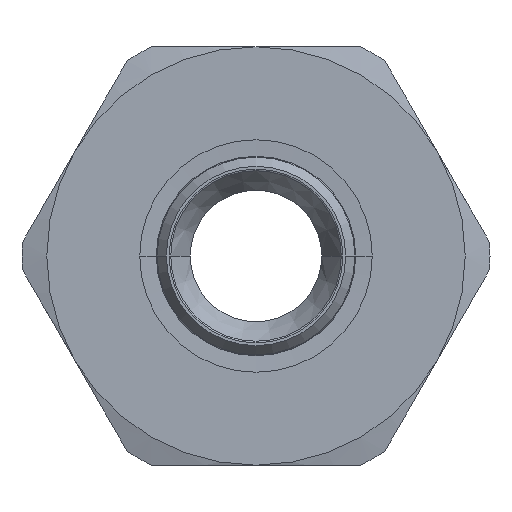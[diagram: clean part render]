
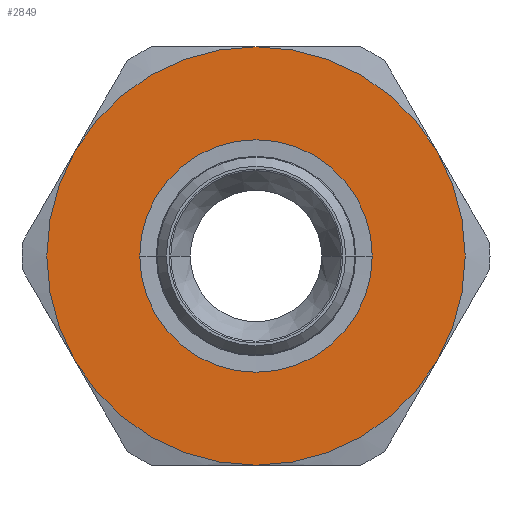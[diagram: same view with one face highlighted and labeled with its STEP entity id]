
A CAD part, left-side view. The second image highlights one B-rep face of the part: STEP entity #2849.
In plain terms, the highlighted planar face has unit normal (-1, 0, 0) as drawn and (0, 0, 1) by its records, which use the part's own axes.
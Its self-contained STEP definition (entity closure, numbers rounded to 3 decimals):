
#1176=CARTESIAN_POINT('',(0.,-19.45,8.5));
#1177=VERTEX_POINT('',#1176);
#1193=CARTESIAN_POINT('',(0.,19.45,8.5));
#1194=VERTEX_POINT('',#1193);
#1201=CARTESIAN_POINT('',(0.,0.,8.5));
#1202=DIRECTION('',(0.0,0.0,-1.0));
#1203=DIRECTION('',(0.0,-1.0,0.0));
#1204=AXIS2_PLACEMENT_3D('',#1201,#1202,#1203);
#1205=CIRCLE('',#1204,19.45);
#1206=EDGE_CURVE('',#1177,#1194,#1205,.T.);
#1663=CARTESIAN_POINT('',(0.,0.,8.5));
#1664=DIRECTION('',(0.0,0.0,-1.0));
#1665=DIRECTION('',(0.0,-1.0,0.0));
#1666=AXIS2_PLACEMENT_3D('',#1663,#1664,#1665);
#1667=CIRCLE('',#1666,19.45);
#1668=EDGE_CURVE('',#1194,#1177,#1667,.T.);
#2222=CARTESIAN_POINT('',(17.5,-30.311,8.5));
#2223=VERTEX_POINT('',#2222);
#2237=CARTESIAN_POINT('',(-17.5,-30.311,8.5));
#2238=VERTEX_POINT('',#2237);
#2239=CARTESIAN_POINT('',(0.,0.0,8.5));
#2240=DIRECTION('',(0.0,0.0,1.0));
#2241=DIRECTION('',(1.0,0.0,0.0));
#2242=AXIS2_PLACEMENT_3D('',#2239,#2240,#2241);
#2243=CIRCLE('',#2242,35.);
#2244=EDGE_CURVE('',#2238,#2223,#2243,.T.);
#2322=CARTESIAN_POINT('',(-35.0,0.,8.5));
#2323=VERTEX_POINT('',#2322);
#2324=CARTESIAN_POINT('',(0.,0.0,8.5));
#2325=DIRECTION('',(0.0,0.0,1.0));
#2326=DIRECTION('',(1.0,0.0,0.0));
#2327=AXIS2_PLACEMENT_3D('',#2324,#2325,#2326);
#2328=CIRCLE('',#2327,35.);
#2329=EDGE_CURVE('',#2323,#2238,#2328,.T.);
#2406=CARTESIAN_POINT('',(-17.5,30.311,8.5));
#2407=VERTEX_POINT('',#2406);
#2408=CARTESIAN_POINT('',(0.,0.0,8.5));
#2409=DIRECTION('',(0.0,0.0,1.0));
#2410=DIRECTION('',(1.0,0.0,0.0));
#2411=AXIS2_PLACEMENT_3D('',#2408,#2409,#2410);
#2412=CIRCLE('',#2411,35.);
#2413=EDGE_CURVE('',#2407,#2323,#2412,.T.);
#2490=CARTESIAN_POINT('',(17.5,30.311,8.5));
#2491=VERTEX_POINT('',#2490);
#2492=CARTESIAN_POINT('',(0.,0.0,8.5));
#2493=DIRECTION('',(0.0,0.0,1.0));
#2494=DIRECTION('',(1.0,0.0,0.0));
#2495=AXIS2_PLACEMENT_3D('',#2492,#2493,#2494);
#2496=CIRCLE('',#2495,35.);
#2497=EDGE_CURVE('',#2491,#2407,#2496,.T.);
#2575=CARTESIAN_POINT('',(35.0,0.0,8.5));
#2576=VERTEX_POINT('',#2575);
#2577=CARTESIAN_POINT('',(0.,0.0,8.5));
#2578=DIRECTION('',(0.0,0.0,1.0));
#2579=DIRECTION('',(1.0,0.0,0.0));
#2580=AXIS2_PLACEMENT_3D('',#2577,#2578,#2579);
#2581=CIRCLE('',#2580,35.);
#2582=EDGE_CURVE('',#2576,#2491,#2581,.T.);
#2659=CARTESIAN_POINT('',(0.,0.0,8.5));
#2660=DIRECTION('',(0.0,0.0,1.0));
#2661=DIRECTION('',(1.0,0.0,0.0));
#2662=AXIS2_PLACEMENT_3D('',#2659,#2660,#2661);
#2663=CIRCLE('',#2662,35.);
#2664=EDGE_CURVE('',#2223,#2576,#2663,.T.);
#2832=CARTESIAN_POINT('',(0.,0.,8.5));
#2833=DIRECTION('',(0.0,0.0,1.0));
#2834=DIRECTION('',(1.0,0.0,0.0));
#2835=AXIS2_PLACEMENT_3D('',#2832,#2833,#2834);
#2836=PLANE('',#2835);
#2837=ORIENTED_EDGE('',*,*,#2664,.T.);
#2838=ORIENTED_EDGE('',*,*,#2582,.T.);
#2839=ORIENTED_EDGE('',*,*,#2497,.T.);
#2840=ORIENTED_EDGE('',*,*,#2413,.T.);
#2841=ORIENTED_EDGE('',*,*,#2329,.T.);
#2842=ORIENTED_EDGE('',*,*,#2244,.T.);
#2843=EDGE_LOOP('',(#2837,#2838,#2839,#2840,#2841,#2842));
#2844=FACE_OUTER_BOUND('',#2843,.T.);
#2845=ORIENTED_EDGE('',*,*,#1206,.T.);
#2846=ORIENTED_EDGE('',*,*,#1668,.T.);
#2847=EDGE_LOOP('',(#2845,#2846));
#2848=FACE_BOUND('',#2847,.T.);
#2849=ADVANCED_FACE('',(#2844,#2848),#2836,.T.);
